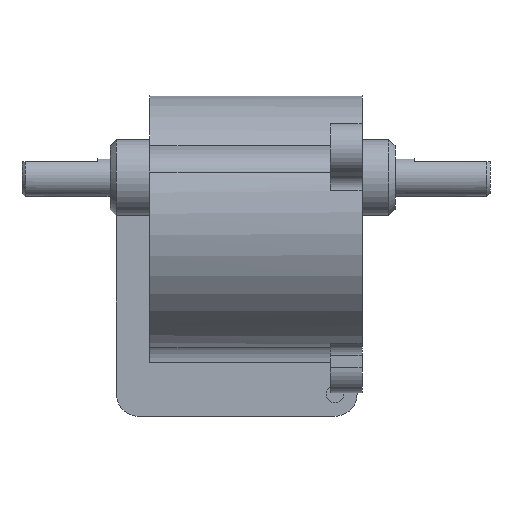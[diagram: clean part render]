
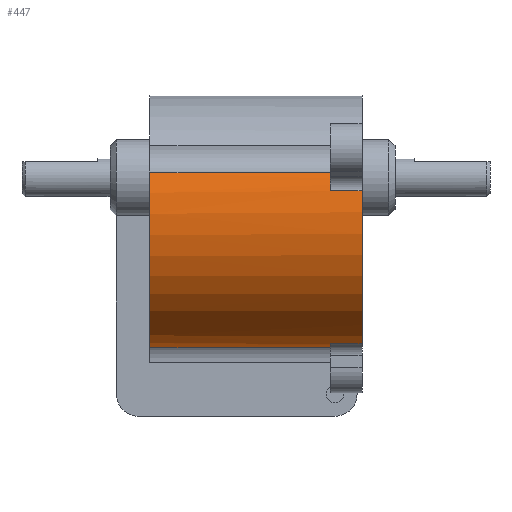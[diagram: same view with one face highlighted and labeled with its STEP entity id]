
A CAD part, left-side view. The second image highlights one B-rep face of the part: STEP entity #447.
In plain terms, the highlighted cylindrical face has radius 20 mm (diameter 40 mm), a partial arc.
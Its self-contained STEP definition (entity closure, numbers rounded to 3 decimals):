
#346=CARTESIAN_POINT('',(-19.391,5.0,4.897));
#347=VERTEX_POINT('',#346);
#355=CARTESIAN_POINT('',(-19.391,0.0,4.897));
#356=VERTEX_POINT('',#355);
#357=CARTESIAN_POINT('',(-19.391,5.0,4.897));
#358=DIRECTION('',(0.0,-1.0,0.0));
#359=VECTOR('',#358,5.0);
#360=LINE('',#357,#359);
#361=EDGE_CURVE('',#347,#356,#360,.T.);
#381=CARTESIAN_POINT('',(0.0,0.0,0.0));
#382=DIRECTION('',(0.0,1.0,0.0));
#383=DIRECTION('',(1.0,0.0,0.0));
#384=AXIS2_PLACEMENT_3D('',#381,#382,#383);
#385=CYLINDRICAL_SURFACE('',#384,20.0);
#386=ORIENTED_EDGE('',*,*,#361,.F.);
#387=CARTESIAN_POINT('',(-18.42,5.0,7.791));
#388=VERTEX_POINT('',#387);
#389=CARTESIAN_POINT('',(0.0,5.0,0.0));
#390=DIRECTION('',(0.0,1.0,0.0));
#391=DIRECTION('',(1.0,0.0,0.0));
#392=AXIS2_PLACEMENT_3D('',#389,#390,#391);
#393=CIRCLE('',#392,20.0);
#394=EDGE_CURVE('',#347,#388,#393,.T.);
#395=ORIENTED_EDGE('',*,*,#394,.T.);
#396=CARTESIAN_POINT('',(-18.42,33.5,7.791));
#397=VERTEX_POINT('',#396);
#398=CARTESIAN_POINT('',(-18.42,5.0,7.791));
#399=DIRECTION('',(0.0,1.0,0.0));
#400=VECTOR('',#399,28.5);
#401=LINE('',#398,#400);
#402=EDGE_CURVE('',#388,#397,#401,.T.);
#403=ORIENTED_EDGE('',*,*,#402,.T.);
#404=CARTESIAN_POINT('',(-2.462,33.5,-19.848));
#405=VERTEX_POINT('',#404);
#406=CARTESIAN_POINT('',(0.0,33.5,0.0));
#407=DIRECTION('',(0.0,-1.0,0.0));
#408=DIRECTION('',(1.0,0.0,0.0));
#409=AXIS2_PLACEMENT_3D('',#406,#407,#408);
#410=CIRCLE('',#409,20.0);
#411=EDGE_CURVE('',#397,#405,#410,.T.);
#412=ORIENTED_EDGE('',*,*,#411,.T.);
#413=CARTESIAN_POINT('',(-2.462,5.0,-19.848));
#414=VERTEX_POINT('',#413);
#415=CARTESIAN_POINT('',(-2.462,33.5,-19.848));
#416=DIRECTION('',(0.0,-1.0,0.0));
#417=VECTOR('',#416,28.5);
#418=LINE('',#415,#417);
#419=EDGE_CURVE('',#405,#414,#418,.T.);
#420=ORIENTED_EDGE('',*,*,#419,.T.);
#421=CARTESIAN_POINT('',(-5.455,5.0,-19.242));
#422=VERTEX_POINT('',#421);
#423=CARTESIAN_POINT('',(0.0,5.0,0.0));
#424=DIRECTION('',(0.0,1.0,0.0));
#425=DIRECTION('',(1.0,0.0,0.0));
#426=AXIS2_PLACEMENT_3D('',#423,#424,#425);
#427=CIRCLE('',#426,20.0);
#428=EDGE_CURVE('',#414,#422,#427,.T.);
#429=ORIENTED_EDGE('',*,*,#428,.T.);
#430=CARTESIAN_POINT('',(-5.455,0.0,-19.242));
#431=VERTEX_POINT('',#430);
#432=CARTESIAN_POINT('',(-5.455,0.0,-19.242));
#433=DIRECTION('',(0.0,1.0,0.0));
#434=VECTOR('',#433,5.0);
#435=LINE('',#432,#434);
#436=EDGE_CURVE('',#431,#422,#435,.T.);
#437=ORIENTED_EDGE('',*,*,#436,.F.);
#438=CARTESIAN_POINT('',(0.0,0.0,0.0));
#439=DIRECTION('',(0.0,-1.0,0.0));
#440=DIRECTION('',(1.0,0.0,0.0));
#441=AXIS2_PLACEMENT_3D('',#438,#439,#440);
#442=CIRCLE('',#441,20.0);
#443=EDGE_CURVE('',#356,#431,#442,.T.);
#444=ORIENTED_EDGE('',*,*,#443,.F.);
#445=EDGE_LOOP('',(#386,#395,#403,#412,#420,#429,#437,#444));
#446=FACE_OUTER_BOUND('',#445,.T.);
#447=ADVANCED_FACE('',(#446),#385,.T.);
